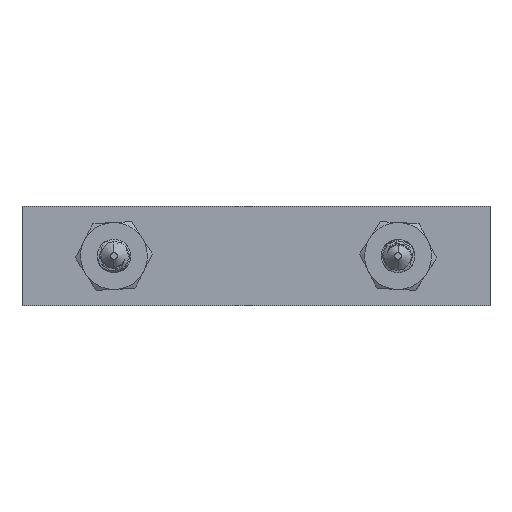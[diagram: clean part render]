
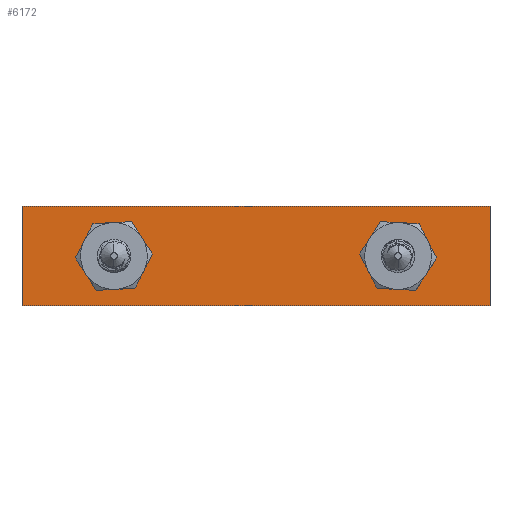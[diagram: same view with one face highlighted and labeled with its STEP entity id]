
A CAD part, front view. The second image highlights one B-rep face of the part: STEP entity #6172.
In plain terms, the highlighted planar face has unit normal (0, -1, 0).
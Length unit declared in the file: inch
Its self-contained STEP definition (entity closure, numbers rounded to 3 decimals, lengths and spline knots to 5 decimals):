
#39 = DIRECTION ( 'NONE',  ( 0., 0., 1. ) ) ;
#958 = VERTEX_POINT ( 'NONE', #16990 ) ;
#1076 = DIRECTION ( 'NONE',  ( 0., 1., 0. ) ) ;
#1406 = PLANE ( 'NONE',  #14602 ) ;
#1651 = DIRECTION ( 'NONE',  ( 0., 1., 0. ) ) ;
#1743 = FACE_BOUND ( 'NONE', #4103, .T. ) ;
#1842 = DIRECTION ( 'NONE',  ( 1., 0., 0. ) ) ;
#2666 = CIRCLE ( 'NONE', #4918, 0.1875 ) ;
#2676 = DIRECTION ( 'NONE',  ( 0., 0., -1. ) ) ;
#2751 = EDGE_CURVE ( 'Edge13', #6779, #3727, #8586, .T. ) ;
#3075 = DIRECTION ( 'NONE',  ( 0., 0., -1. ) ) ;
#3167 = CARTESIAN_POINT ( 'NONE',  ( 0., 0.05, 0. ) ) ;
#3727 = VERTEX_POINT ( 'NONE', #5083 ) ;
#3997 = EDGE_CURVE ( 'Edge7', #11090, #4900, #2666, .T. ) ;
#4072 = VECTOR ( 'NONE', #1842, 39.37008 ) ;
#4090 = ORIENTED_EDGE ( 'NONE', *, *, #4660, .T. ) ;
#4103 = EDGE_LOOP ( 'NONE', ( #13786, #4090 ) ) ;
#4179 = AXIS2_PLACEMENT_3D ( 'NONE', #12087, #12355, #6625 ) ;
#4660 = EDGE_CURVE ( 'Edge12', #958, #7596, #12055, .T. ) ;
#4900 = VERTEX_POINT ( 'NONE', #8448 ) ;
#4916 = EDGE_LOOP ( 'NONE', ( #14042, #9603 ) ) ;
#4918 = AXIS2_PLACEMENT_3D ( 'NONE', #17445, #7939, #39 ) ;
#5083 = CARTESIAN_POINT ( 'NONE',  ( 3.5, 0.05, -0.37165 ) ) ;
#5234 = DIRECTION ( 'NONE',  ( -1., 0., 0. ) ) ;
#5333 = FACE_OUTER_BOUND ( 'NONE', #8651, .T. ) ;
#5717 = DIRECTION ( 'NONE',  ( 0., 0., 1. ) ) ;
#5815 = CARTESIAN_POINT ( 'NONE',  ( 0., 0.05, 0. ) ) ;
#5937 = EDGE_CURVE ( 'Edge6', #7742, #6779, #8671, .T. ) ;
#6070 = VECTOR ( 'NONE', #7328, 39.37008 ) ;
#6172 = ADVANCED_FACE ( 'Face6', ( #6663, #5333, #1743 ), #1406, .T. ) ;
#6625 = DIRECTION ( 'NONE',  ( 0., 0., -1. ) ) ;
#6663 = FACE_BOUND ( 'NONE', #4916, .T. ) ;
#6779 = VERTEX_POINT ( 'NONE', #13681 ) ;
#6936 = CARTESIAN_POINT ( 'NONE',  ( 0., 0.05, 0.37165 ) ) ;
#7328 = DIRECTION ( 'NONE',  ( 0., 0., -1. ) ) ;
#7359 = ORIENTED_EDGE ( 'NONE', *, *, #8786, .F. ) ;
#7573 = CIRCLE ( 'NONE', #4179, 0.1875 ) ;
#7596 = VERTEX_POINT ( 'NONE', #17335 ) ;
#7742 = VERTEX_POINT ( 'NONE', #6936 ) ;
#7939 = DIRECTION ( 'NONE',  ( 0., 1., 0. ) ) ;
#8448 = CARTESIAN_POINT ( 'NONE',  ( 2.8125, 0.05, 0.1875 ) ) ;
#8586 = LINE ( 'NONE', #14013, #4072 ) ;
#8651 = EDGE_LOOP ( 'NONE', ( #11695, #10138, #13795, #7359 ) ) ;
#8671 = LINE ( 'NONE', #3167, #6070 ) ;
#8786 = EDGE_CURVE ( 'Edge10', #14256, #3727, #8953, .T. ) ;
#8953 = LINE ( 'NONE', #14289, #11210 ) ;
#9497 = DIRECTION ( 'NONE',  ( 0., -1., 0. ) ) ;
#9603 = ORIENTED_EDGE ( 'NONE', *, *, #13340, .T. ) ;
#9847 = AXIS2_PLACEMENT_3D ( 'NONE', #14971, #1651, #5717 ) ;
#10138 = ORIENTED_EDGE ( 'NONE', *, *, #5937, .T. ) ;
#10589 = VECTOR ( 'NONE', #5234, 39.37008 ) ;
#11090 = VERTEX_POINT ( 'NONE', #12252 ) ;
#11210 = VECTOR ( 'NONE', #14381, 39.37008 ) ;
#11695 = ORIENTED_EDGE ( 'NONE', *, *, #17147, .T. ) ;
#11925 = CARTESIAN_POINT ( 'NONE',  ( 3.5, 0.05, 0.37165 ) ) ;
#12014 = LINE ( 'NONE', #17414, #10589 ) ;
#12055 = CIRCLE ( 'NONE', #14302, 0.1875 ) ;
#12087 = CARTESIAN_POINT ( 'NONE',  ( 0.6875, 0.05, 0. ) ) ;
#12252 = CARTESIAN_POINT ( 'NONE',  ( 2.8125, 0.05, -0.1875 ) ) ;
#12355 = DIRECTION ( 'NONE',  ( 0., 1., 0. ) ) ;
#13340 = EDGE_CURVE ( 'Edge7', #4900, #11090, #14643, .T. ) ;
#13681 = CARTESIAN_POINT ( 'NONE',  ( 0., 0.05, -0.37165 ) ) ;
#13786 = ORIENTED_EDGE ( 'NONE', *, *, #16101, .T. ) ;
#13795 = ORIENTED_EDGE ( 'NONE', *, *, #2751, .T. ) ;
#14013 = CARTESIAN_POINT ( 'NONE',  ( 3.5, 0.05, -0.37165 ) ) ;
#14042 = ORIENTED_EDGE ( 'NONE', *, *, #3997, .T. ) ;
#14256 = VERTEX_POINT ( 'NONE', #11925 ) ;
#14289 = CARTESIAN_POINT ( 'NONE',  ( 3.5, 0.05, 0.875 ) ) ;
#14302 = AXIS2_PLACEMENT_3D ( 'NONE', #14847, #1076, #2676 ) ;
#14381 = DIRECTION ( 'NONE',  ( 0., 0., -1. ) ) ;
#14602 = AXIS2_PLACEMENT_3D ( 'NONE', #5815, #9497, #3075 ) ;
#14643 = CIRCLE ( 'NONE', #9847, 0.1875 ) ;
#14847 = CARTESIAN_POINT ( 'NONE',  ( 0.6875, 0.05, 0. ) ) ;
#14971 = CARTESIAN_POINT ( 'NONE',  ( 2.8125, 0.05, 0. ) ) ;
#16101 = EDGE_CURVE ( 'Edge12', #7596, #958, #7573, .T. ) ;
#16990 = CARTESIAN_POINT ( 'NONE',  ( 0.6875, 0.05, 0.1875 ) ) ;
#17147 = EDGE_CURVE ( 'NONE', #14256, #7742, #12014, .T. ) ;
#17335 = CARTESIAN_POINT ( 'NONE',  ( 0.6875, 0.05, -0.1875 ) ) ;
#17414 = CARTESIAN_POINT ( 'NONE',  ( 3.5, 0.05, 0.37165 ) ) ;
#17445 = CARTESIAN_POINT ( 'NONE',  ( 2.8125, 0.05, 0. ) ) ;
